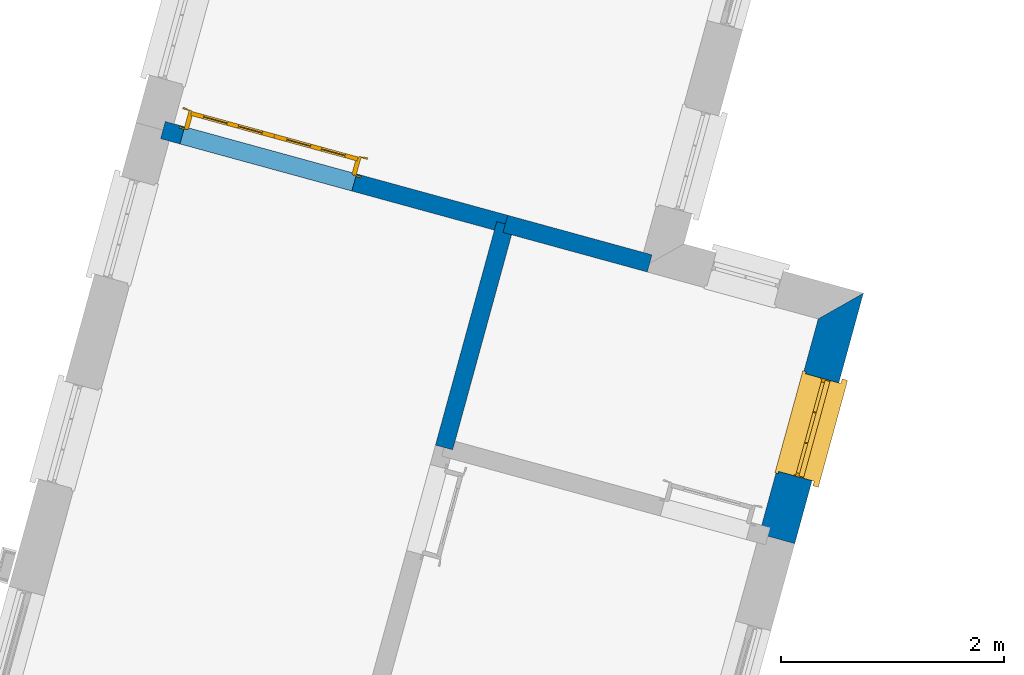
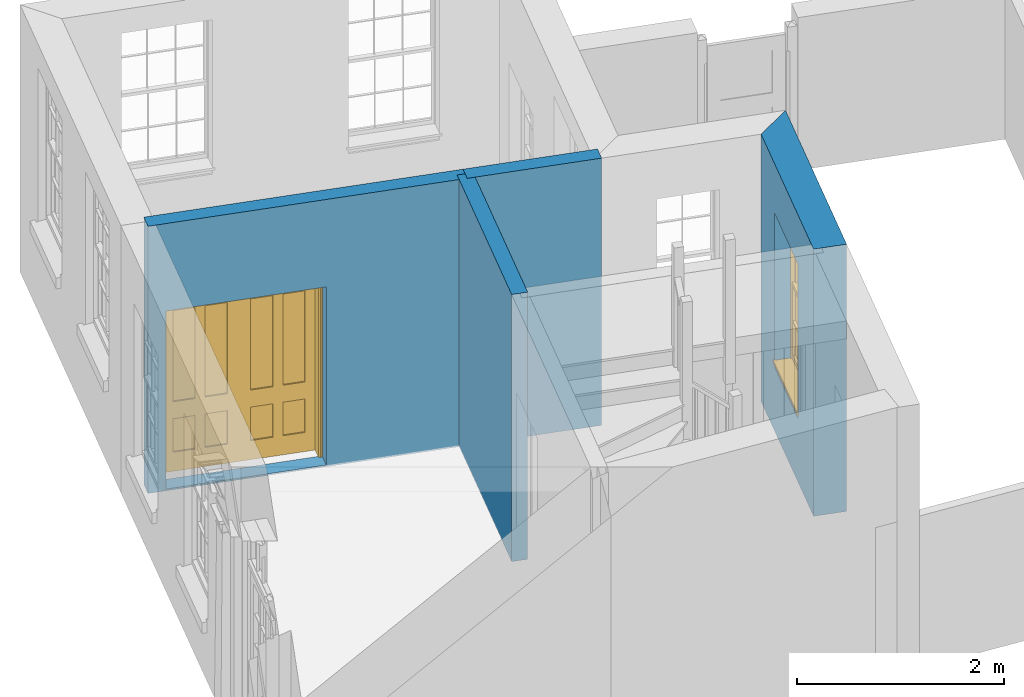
# One storey, part 4 of 8: 4 walls, 1 door, 1 window, 2 openings.
"""IFC4 building model written with IfcOpenShell, lengths in metres."""

from ifc_helpers import new_model, si_unit, frame, origin, origin_with_axes, place, context, subcontext, project, spatial, polyline, outline, extrude, faceted_brep, source, transform, mapped, material, layer, layer_set, layer_usage, type_object, type_shapes, element, fill, save


model = new_model("IFC4")

# Units and contexts
model_context = context("Model", 3, world=origin_with_axes())
body_context = subcontext(model_context, "Body", "Model", "MODEL_VIEW")
ifc_project = project(units=[si_unit("PLANEANGLEUNIT", "RADIAN"), si_unit("MASSUNIT", "GRAM", prefix="KILO"), si_unit("FORCEUNIT", "NEWTON", prefix="KILO"), si_unit("LENGTHUNIT", "METRE"), si_unit("AREAUNIT", "SQUARE_METRE"), si_unit("VOLUMEUNIT", "CUBIC_METRE")], contexts=[model_context, model_context])

# Sites, building, storey
site_1_placement = place(None, origin_with_axes())
site_1 = spatial("IfcSite", under=ifc_project, at=site_1_placement, Name="Tamar")
site_2_placement = place(site_1_placement, origin_with_axes())
site_2 = spatial("IfcSite", under=site_1, at=site_2_placement, Name="Site plot-28", CompositionType="ELEMENT")
building_placement = place(None, origin_with_axes())
building = spatial("IfcBuilding", under=site_2, at=building_placement, Name="Building plot-28", CompositionType="ELEMENT")
storey_placement = place(None, frame((0.0, 0.0, 24.0), z_axis=(0.0, 0.0, 1.0), x_axis=(1.0, 0.0, 0.0)))
storey = spatial("IfcBuildingStorey", under=building, at=storey_placement, Name="plot-28 0", CompositionType="ELEMENT", Elevation=24.0)

# Wall, opening, window
ifc_material_1 = material(Name="Masonry")
ifc_layer_1 = layer(ifc_material_1, 0.33, ventilated=False)
ifc_layer_set_1 = layer_set([ifc_layer_1], Name="exterior_0.08_0.25")
ifc_layer_usage_1 = layer_usage(ifc_layer_set_1, "AXIS2", "POSITIVE", -0.25)
wall_type_1 = type_object("IfcWallType", Name="exterior_0.08_0.25", PredefinedType="SOLIDWALL", material=ifc_layer_set_1)
wall_1_placement = place(storey_placement, frame((266.03017594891, 261.552061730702, 0.0), z_axis=(0.0, 0.0, 1.0), x_axis=(0.26425530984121, 0.96445276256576, 0.0)))
wall_1 = element("IfcWall", 1, at=wall_1_placement, inside=storey, type_object=wall_type_1, material=ifc_layer_usage_1, Name="exterior", context=body_context, shape_type="SweptSolid", body=[
    extrude(outline(polyline([(5.82694029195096e-14, 0.0799999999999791), (-1.87556871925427e-13, -0.249999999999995), (2.33108839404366, -0.250000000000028), (2.00108839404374, 0.0800000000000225), (5.82694029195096e-14, 0.0799999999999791)])), origin_with_axes(), (0.0, 0.0, 1.0), 3.15),
])
opening_1_placement = place(wall_1_placement, frame((0.58554419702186, 0.0, 0.75)))
opening_1 = element("IfcOpeningElement", 2, at=opening_1_placement, cuts=wall_1, Name="My Opening", ObjectType="Opening", context=body_context, shape_type="SweptSolid", body=[
    extrude(outline(polyline([(0.0, -0.270000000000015), (0.909999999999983, -0.269999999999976), (0.909999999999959, 1.10000000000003), (-2.37587727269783e-14, 1.09999999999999), (0.0, -0.270000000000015)])), origin_with_axes(), (0.0, 0.0, 1.0), 1.82),
])
window_type = type_object("IfcWindowType", Name="sash_big", PartitioningType="DOUBLE_PANEL_HORIZONTAL", PredefinedType="NOTDEFINED")
shared_shape_1 = source(origin(), body_context, "Body", "Brep", [
    faceted_brep([(0.033125, 0.145, 0.975209), (0.01, 0.145, 0.975209), (0.033125, 0.145, 1.376042), (0.876875, 0.145, 0.975209), (0.876875, 0.145, 1.376042), (0.9, 0.145, 0.975209), (0.876875, 0.145, 1.386042), (0.876875, 0.145, 1.786875), (0.9, 0.145, 1.81), (0.033125, 0.145, 1.786875), (0.033125, 0.145, 1.386042), (0.01, 0.145, 1.81), (0.876875, 0.115, 1.376042), (0.876875, 0.115, 0.975209), (0.9, 0.115, 0.937083), (0.033125, 0.115, 1.786875), (0.01, 0.115, 1.81), (0.033125, 0.115, 1.386042), (0.01, 0.115, 0.937083), (0.033125, 0.115, 0.975209), (0.033125, 0.115, 1.376042), (0.876875, 0.115, 1.786875), (0.876875, 0.115, 1.386042), (0.9, 0.115, 1.81), (0.033125, 0.145, 0.937083), (0.01, 0.145, 0.937083), (0.033125, 0.145, 0.53625), (0.876875, 0.145, 0.937083), (0.876875, 0.145, 0.53625), (0.9, 0.145, 0.937083), (0.876875, 0.145, 0.52625), (0.876875, 0.145, 0.125417), (0.9, 0.145, 0.077167), (0.033125, 0.145, 0.125417), (0.033125, 0.145, 0.52625), (0.01, 0.145, 0.077167), (-0.0425, 0.0, 0.01), (-0.0425, -0.05, 0.001667), (0.0, 0.0, 0.01), (0.9525, 0.0, 0.01), (0.91, 0.0, 0.01), (0.9525, -0.05, 0.001667), (-0.02, 0.33, 0.077167), (0.0, 0.33, 0.077167), (-0.02, 0.36, 0.077167), (0.0, 0.19, 0.077167), (0.01, 0.19, 0.077167), (0.91, 0.19, 0.077167), (0.91, 0.33, 0.077167), (0.9, 0.19, 0.077167), (0.93, 0.33, 0.077167), (0.93, 0.36, 0.077167), (0.01, 0.175, 0.975209), (0.9, 0.175, 0.975209), (0.876875, 0.175, 0.125417), (0.876875, 0.175, 0.52625), (0.9, 0.175, 0.077167), (0.876875, 0.175, 0.53625), (0.876875, 0.175, 0.937083), (0.033125, 0.175, 0.125417), (0.01, 0.175, 0.077167), (0.033125, 0.175, 0.52625), (0.033125, 0.175, 0.937083), (0.033125, 0.175, 0.53625), (-0.02, 0.33, 0.052167), (-0.02, 0.36, 0.052167), (0.93, 0.36, 0.052167), (0.93, 0.33, 0.052167), (0.91, 0.33, 0.052167), (0.0, 0.33, 0.052167), (0.91, 0.1, 0.026667), (0.0, 0.1, 0.026667), (-0.0425, -0.05, -0.123333), (0.9525, -0.05, -0.123333), (-0.0425, 0.0, -0.123333), (0.9525, 0.0, -0.123333), (0.01, 0.19, 1.81), (0.9, 0.19, 1.81), (0.0, 0.19, 1.82), (0.91, 0.19, 1.82), (0.01, 0.1, 0.077167), (0.9, 0.1, 0.077167), (0.592292, 0.145, 0.125417), (0.592292, 0.175, 0.125417), (0.317708, 0.175, 0.125417), (0.317708, 0.145, 0.125417), (0.592292, 0.145, 0.53625), (0.317708, 0.145, 0.53625), (0.317708, 0.145, 0.52625), (0.592292, 0.145, 0.52625), (0.592292, 0.175, 0.53625), (0.317708, 0.175, 0.53625), (0.592292, 0.115, 1.386042), (0.592292, 0.145, 1.386042), (0.317708, 0.145, 1.386042), (0.317708, 0.115, 1.386042), (0.317708, 0.115, 1.376042), (0.592292, 0.115, 1.376042), (0.317708, 0.145, 1.376042), (0.592292, 0.145, 1.376042), (0.602292, 0.115, 1.376042), (0.592292, 0.115, 0.975209), (0.602292, 0.115, 0.975209), (0.602292, 0.145, 0.975209), (0.592292, 0.145, 0.975209), (0.602292, 0.145, 1.376042), (0.602292, 0.175, 0.53625), (0.602292, 0.145, 0.53625), (0.317708, 0.175, 0.52625), (0.307708, 0.175, 0.125417), (0.307708, 0.175, 0.52625), (0.602292, 0.175, 0.52625), (0.602292, 0.175, 0.125417), (0.592292, 0.175, 0.52625), (0.307708, 0.175, 0.53625), (0.317708, 0.175, 0.937083), (0.307708, 0.175, 0.937083), (0.602292, 0.175, 0.937083), (0.592292, 0.175, 0.937083), (0.307708, 0.145, 0.52625), (0.307708, 0.145, 0.125417), (0.307708, 0.145, 0.53625), (0.307708, 0.145, 0.937083), (0.592292, 0.145, 0.937083), (0.317708, 0.145, 0.937083), (0.602292, 0.145, 0.937083), (0.602292, 0.145, 0.52625), (0.602292, 0.145, 0.125417), (0.307708, 0.115, 1.386042), (0.307708, 0.115, 1.376042), (0.307708, 0.115, 0.975209), (0.317708, 0.115, 0.975209), (0.317708, 0.115, 1.786875), (0.307708, 0.115, 1.786875), (0.602292, 0.115, 1.786875), (0.592292, 0.115, 1.786875), (0.602292, 0.115, 1.386042), (0.602292, 0.145, 1.386042), (0.307708, 0.145, 1.386042), (0.307708, 0.145, 1.786875), (0.317708, 0.145, 1.786875), (0.592292, 0.145, 1.786875), (0.602292, 0.145, 1.786875), (0.307708, 0.145, 1.376042), (0.317708, 0.145, 0.975209), (0.307708, 0.145, 0.975209), (0.91, 0.1, 1.82), (0.9, 0.1, 1.81), (0.01, 0.1, 1.81), (0.0, 0.1, 1.82), (0.91, 0.0, 0.0), (0.0, 0.0, 0.0), (0.91, 0.33, 0.0), (0.0, 0.33, 0.0)], [[[0, 1, 2]], [[3, 4, 5]], [[6, 7, 8]], [[9, 10, 11]], [[12, 13, 14]], [[15, 16, 17]], [[18, 19, 20]], [[21, 22, 23]], [[24, 25, 26]], [[27, 28, 29]], [[30, 31, 32]], [[33, 34, 35]], [[14, 27, 29]], [[25, 24, 18]], [[36, 37, 38]], [[39, 40, 41]], [[42, 43, 44]], [[45, 46, 43]], [[47, 48, 49]], [[50, 51, 48]], [[1, 0, 52]], [[5, 53, 3]], [[54, 55, 56]], [[57, 58, 53]], [[59, 60, 61]], [[62, 63, 52]], [[48, 43, 46, 49]], [[51, 44, 43, 48]], [[64, 42, 44, 65]], [[65, 44, 51, 66]], [[66, 51, 50, 67]], [[65, 66, 68, 69]], [[60, 56, 49, 46]], [[70, 71, 38, 40]], [[37, 41, 40, 38]], [[37, 72, 73, 41]], [[74, 75, 73, 72]], [[8, 11, 76, 77]], [[76, 78, 79, 77]], [[32, 35, 80, 81]], [[81, 80, 71, 70]], [[82, 83, 84, 85]], [[86, 87, 88, 89]], [[86, 90, 91, 87]], [[92, 93, 94, 95]], [[92, 95, 96, 97]], [[96, 98, 99, 97]], [[100, 97, 101, 102]], [[103, 104, 99, 105]], [[97, 99, 104, 101]], [[102, 103, 105, 100]], [[28, 57, 106, 107]], [[108, 84, 109, 110]], [[111, 112, 83, 113]], [[114, 110, 61, 63]], [[90, 113, 108, 91]], [[115, 91, 114, 116]], [[117, 106, 90, 118]], [[111, 106, 57, 55]], [[119, 110, 109, 120]], [[34, 61, 110, 119]], [[89, 113, 83, 82]], [[88, 108, 113, 89]], [[85, 84, 108, 88]], [[121, 114, 63, 26]], [[122, 116, 114, 121]], [[123, 118, 90, 86]], [[87, 91, 115, 124]], [[107, 106, 117, 125]], [[126, 111, 55, 30]], [[127, 112, 111, 126]], [[126, 30, 28, 107]], [[88, 119, 120, 85]], [[126, 89, 82, 127]], [[125, 123, 86, 107]], [[121, 26, 34, 119]], [[124, 122, 121, 87]], [[128, 17, 20, 129]], [[96, 129, 130, 131]], [[132, 133, 128, 95]], [[134, 135, 92, 136]], [[100, 12, 22, 136]], [[137, 6, 4, 105]], [[94, 138, 139, 140]], [[137, 93, 141, 142]], [[99, 98, 94, 93]], [[143, 2, 10, 138]], [[144, 145, 143, 98]], [[129, 143, 145, 130]], [[20, 2, 143, 129]], [[131, 144, 98, 96]], [[128, 138, 10, 17]], [[133, 139, 138, 128]], [[135, 141, 93, 92]], [[95, 94, 140, 132]], [[22, 6, 137, 136]], [[136, 137, 142, 134]], [[100, 105, 4, 12]], [[107, 86, 89, 126]], [[106, 111, 113, 90]], [[91, 108, 110, 114]], [[87, 121, 119, 88]], [[97, 100, 136, 92]], [[129, 96, 95, 128]], [[98, 143, 138, 94]], [[105, 99, 93, 137]], [[131, 101, 104, 144]], [[124, 115, 118, 123]], [[132, 140, 141, 135]], [[120, 109, 59, 33]], [[15, 9, 139, 133]], [[134, 142, 7, 21]], [[31, 54, 112, 127]], [[36, 74, 72, 37]], [[39, 41, 73, 75]], [[18, 14, 101, 131]], [[23, 16, 132, 135]], [[83, 56, 60, 84]], [[52, 53, 118, 115]], [[53, 52, 144, 104]], [[11, 8, 141, 140]], [[14, 18, 124, 123]], [[2, 1, 11, 10]], [[8, 5, 4, 6]], [[57, 53, 56, 55]], [[60, 52, 63, 61]], [[26, 25, 35, 34]], [[32, 29, 28, 30]], [[14, 23, 22, 12]], [[18, 20, 17, 16]], [[19, 0, 2, 20]], [[17, 10, 9, 15]], [[12, 4, 3, 13]], [[21, 7, 6, 22]], [[27, 58, 57, 28]], [[30, 55, 54, 31]], [[33, 59, 61, 34]], [[26, 63, 62, 24]], [[5, 8, 77, 53]], [[76, 11, 1, 52]], [[46, 45, 78, 76]], [[49, 77, 79, 47]], [[70, 146, 147, 81]], [[71, 80, 148, 149]], [[19, 130, 145, 0]], [[102, 13, 3, 103]], [[116, 122, 24, 62]], [[29, 32, 81, 14]], [[80, 35, 25, 18]], [[60, 46, 76, 52]], [[77, 49, 56, 53]], [[23, 14, 81, 147]], [[16, 148, 80, 18]], [[35, 85, 120]], [[120, 33, 35]], [[127, 82, 32]], [[32, 31, 127]], [[32, 82, 85, 35]], [[102, 101, 14]], [[14, 13, 102]], [[18, 131, 130]], [[130, 19, 18]], [[134, 21, 23]], [[23, 135, 134]], [[16, 15, 133]], [[133, 132, 16]], [[11, 140, 139]], [[139, 9, 11]], [[142, 141, 8]], [[8, 7, 142]], [[23, 147, 148, 16]], [[146, 149, 148, 147]], [[52, 115, 116]], [[116, 62, 52]], [[118, 53, 117]], [[58, 117, 53]], [[27, 125, 117, 58]], [[56, 83, 112]], [[112, 54, 56]], [[109, 84, 60]], [[60, 59, 109]], [[125, 27, 14]], [[14, 123, 125]], [[122, 124, 18]], [[18, 24, 122]], [[145, 144, 52]], [[52, 0, 145]], [[103, 3, 53]], [[53, 104, 103]], [[79, 78, 149, 146]], [[78, 45, 71, 149]], [[146, 70, 47, 79]], [[150, 75, 74, 151]], [[68, 66, 67]], [[48, 68, 67, 50]], [[69, 64, 65]], [[42, 64, 69, 43]], [[69, 68, 152, 153]], [[70, 68, 48, 47]], [[150, 152, 68, 70]], [[43, 69, 71, 45]], [[69, 153, 151, 71]], [[152, 150, 151, 153]], [[38, 151, 74, 36]], [[71, 151, 38]], [[39, 75, 150, 40]], [[40, 150, 70]]]),
])
type_shapes(window_type, [shared_shape_1])
window_placement = place(storey_placement, frame((266.445311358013, 262.045442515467, 0.75), z_axis=(0.0, 0.0, 1.0), x_axis=(0.240472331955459, 0.877652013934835, 0.0)))
window = element("IfcWindow", 3, at=window_placement, inside=storey, type_object=window_type, Name="toilet outside window", OverallHeight=1.82, OverallWidth=0.91, context=body_context, shape_type="MappedRepresentation", body=[
    mapped(shared_shape_1, transform((0.0, 0.0, 0.0), scale=1.0)),
])
fill(opening_1, window)

# Wall, opening, door
ifc_material_2 = material(Name="Masonry")
ifc_layer_2 = layer(ifc_material_2, 0.16, ventilated=False)
ifc_layer_set_2 = layer_set([ifc_layer_2], Name="interior_0.08_0.08")
ifc_layer_usage_2 = layer_usage(ifc_layer_set_2, "AXIS2", "POSITIVE", -0.08)
wall_type_2 = type_object("IfcWallType", Name="interior_0.08_0.08", PredefinedType="SOLIDWALL", material=ifc_layer_set_2)
wall_2_placement = place(storey_placement, frame((260.599846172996, 265.197737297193, 0.0), z_axis=(0.0, 0.0, 1.0), x_axis=(0.964452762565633, -0.264255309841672, 0.0)))
wall_2 = element("IfcWall", 4, at=wall_2_placement, inside=storey, type_object=wall_type_2, material=ifc_layer_usage_2, Name="interior", context=body_context, shape_type="SweptSolid", body=[
    extrude(outline(polyline([(1.99178587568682e-14, 0.0799999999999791), (-1.99098923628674e-14, -0.0799999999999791), (3.18671452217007, -0.0799999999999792), (3.18671452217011, 0.079999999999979), (1.99178587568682e-14, 0.0799999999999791)])), origin_with_axes(), (0.0, 0.0, 1.0), 3.15),
])
opening_2_placement = place(wall_2_placement, frame((0.180000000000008, 0.0, 0.0199999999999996)))
opening_2 = element("IfcOpeningElement", 5, at=opening_2_placement, cuts=wall_2, Name="My Opening", ObjectType="Opening", context=body_context, shape_type="SweptSolid", body=[
    extrude(outline(polyline([(0.0, -0.100000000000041), (1.6, -0.10000000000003), (1.59999999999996, 1.10000000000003), (-4.07729405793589e-14, 1.10000000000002), (0.0, -0.100000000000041)])), origin_with_axes(), (0.0, 0.0, 1.0), 2.1),
])
door_type = type_object("IfcDoorType", Name="door_inside_double", OperationType="SINGLE_SWING_LEFT", PredefinedType="NOTDEFINED")
shared_shape_2 = source(origin(), body_context, "Body", "Brep", [
    faceted_brep([(0.14, 0.307, 1.895), (0.14, 0.307, 0.82), (0.363, 0.307, 0.82), (0.363, 0.307, 1.895), (0.14, 0.292, 1.895), (0.14, 0.292, 0.82), (0.363, 0.292, 0.82), (0.363, 0.292, 1.895), (0.027, 0.292, 1.895), (0.027, 0.292, 0.82), (0.363, 0.292, 0.62), (0.14, 0.292, 0.62), (0.463, 0.292, 0.82), (0.463, 0.292, 1.895), (0.363, 0.292, 2.073), (0.14, 0.292, 2.073), (0.027, 0.292, 2.073), (0.027, 0.33, 1.895), (0.027, 0.33, 0.82), (0.027, 0.292, 0.62), (0.463, 0.292, 0.62), (0.14, 0.307, 0.62), (0.363, 0.307, 0.62), (0.463, 0.307, 0.82), (0.463, 0.307, 1.895), (0.463, 0.292, 2.073), (0.14, 0.33, 2.073), (0.363, 0.33, 2.073), (0.027, 0.33, 2.073), (0.14, 0.33, 1.895), (0.14, 0.33, 0.82), (0.027, 0.33, 0.62), (0.027, 0.292, 0.225), (0.14, 0.292, 0.225), (0.363, 0.292, 0.225), (0.463, 0.292, 0.225), (0.686, 0.292, 0.62), (0.686, 0.292, 0.82), (0.14, 0.307, 0.225), (0.363, 0.307, 0.225), (0.686, 0.307, 0.82), (0.686, 0.307, 1.895), (0.686, 0.292, 1.895), (0.686, 0.292, 2.073), (0.463, 0.33, 2.073), (0.363, 0.33, 1.895), (0.14, 0.315, 1.895), (0.14, 0.315, 0.82), (0.14, 0.33, 0.62), (0.027, 0.33, 0.225), (0.027, 0.292, 0.0), (0.14, 0.292, 0.0), (0.363, 0.292, 0.0), (0.463, 0.292, 0.0), (0.463, 0.307, 0.225), (0.463, 0.307, 0.62), (0.686, 0.307, 0.62), (0.799, 0.292, 0.62), (0.799, 0.292, 0.82), (0.799, 0.292, 1.895), (0.799, 0.292, 2.073), (0.686, 0.33, 2.073), (0.463, 0.33, 1.895), (0.363, 0.315, 1.895), (0.363, 0.315, 0.82), (0.363, 0.33, 0.82), (0.363, 0.33, 0.62), (0.14, 0.33, 0.225), (0.027, 0.33, 0.0), (0.14, 0.33, 0.0), (0.363, 0.33, 0.0), (0.463, 0.33, 0.0), (0.686, 0.292, 0.0), (0.686, 0.292, 0.225), (0.686, 0.307, 0.225), (0.799, 0.292, 0.225), (0.799, 0.33, 0.62), (0.799, 0.33, 0.82), (0.799, 0.33, 1.895), (0.799, 0.33, 2.073), (0.686, 0.33, 1.895), (0.463, 0.33, 0.82), (0.463, 0.33, 0.62), (0.363, 0.315, 0.62), (0.14, 0.315, 0.62), (0.14, 0.315, 0.225), (0.363, 0.33, 0.225), (0.463, 0.33, 0.225), (0.686, 0.33, 0.0), (0.799, 0.292, 0.0), (0.799, 0.33, 0.225), (0.686, 0.33, 0.62), (0.686, 0.33, 0.82), (0.686, 0.315, 1.895), (0.463, 0.315, 1.895), (0.463, 0.315, 0.82), (0.363, 0.315, 0.225), (0.686, 0.33, 0.225), (0.799, 0.33, 0.0), (0.686, 0.315, 0.82), (0.463, 0.315, 0.62), (0.463, 0.315, 0.225), (0.686, 0.315, 0.62), (0.686, 0.315, 0.225), (1.46, 0.33, 1.895), (1.237, 0.33, 1.895), (1.237, 0.33, 2.073), (1.46, 0.33, 2.073), (1.46, 0.315, 1.895), (1.237, 0.315, 1.895), (1.137, 0.33, 1.895), (1.137, 0.33, 2.073), (1.237, 0.292, 2.073), (1.46, 0.292, 2.073), (1.573, 0.33, 1.895), (1.573, 0.33, 2.073), (1.46, 0.33, 0.82), (1.46, 0.315, 0.82), (1.237, 0.315, 0.82), (1.237, 0.33, 0.82), (1.137, 0.33, 0.82), (0.914, 0.33, 2.073), (0.914, 0.33, 1.895), (1.137, 0.292, 2.073), (1.237, 0.292, 1.895), (1.46, 0.292, 1.895), (1.573, 0.292, 2.073), (1.573, 0.33, 0.82), (1.573, 0.292, 1.895), (1.237, 0.33, 0.62), (1.137, 0.33, 0.62), (1.137, 0.315, 0.82), (1.137, 0.315, 1.895), (0.914, 0.292, 2.073), (0.914, 0.315, 1.895), (0.801, 0.33, 2.073), (0.801, 0.33, 1.895), (1.137, 0.292, 1.895), (1.237, 0.307, 1.895), (1.46, 0.307, 1.895), (1.573, 0.292, 0.82), (1.573, 0.33, 0.62), (1.46, 0.33, 0.62), (1.237, 0.33, 0.225), (1.137, 0.33, 0.225), (0.914, 0.33, 0.82), (0.914, 0.33, 0.62), (0.914, 0.315, 0.82), (0.801, 0.292, 2.073), (0.914, 0.292, 1.895), (0.801, 0.33, 0.82), (0.801, 0.292, 1.895), (1.137, 0.292, 0.82), (1.237, 0.292, 0.82), (1.237, 0.307, 0.82), (1.46, 0.307, 0.82), (1.46, 0.292, 0.82), (1.573, 0.292, 0.62), (1.573, 0.33, 0.225), (1.46, 0.33, 0.225), (1.46, 0.315, 0.62), (1.237, 0.315, 0.62), (1.237, 0.33, 0.0), (1.137, 0.33, 0.0), (1.137, 0.315, 0.225), (1.137, 0.315, 0.62), (1.237, 0.315, 0.225), (0.914, 0.315, 0.62), (0.801, 0.33, 0.62), (0.914, 0.307, 1.895), (1.137, 0.307, 1.895), (0.801, 0.292, 0.82), (1.137, 0.292, 0.62), (1.237, 0.292, 0.62), (1.137, 0.307, 0.82), (1.46, 0.292, 0.62), (1.573, 0.292, 0.225), (1.573, 0.33, 0.0), (1.46, 0.33, 0.0), (1.46, 0.315, 0.225), (1.237, 0.292, 0.0), (1.137, 0.292, 0.0), (0.914, 0.33, 0.225), (0.914, 0.33, 0.0), (0.914, 0.315, 0.225), (0.801, 0.33, 0.225), (0.801, 0.292, 0.62), (0.914, 0.292, 0.82), (0.914, 0.307, 0.82), (1.137, 0.292, 0.225), (1.237, 0.292, 0.225), (0.914, 0.292, 0.62), (1.46, 0.292, 0.225), (1.573, 0.292, 0.0), (1.46, 0.292, 0.0), (0.914, 0.292, 0.0), (0.801, 0.33, 0.0), (0.801, 0.292, 0.225), (1.237, 0.307, 0.225), (1.237, 0.307, 0.62), (1.137, 0.307, 0.62), (1.137, 0.307, 0.225), (1.46, 0.307, 0.62), (0.914, 0.307, 0.62), (1.46, 0.307, 0.225), (0.914, 0.292, 0.225), (0.801, 0.292, 0.0), (0.914, 0.307, 0.225), (0.02, 0.335, 0.0), (0.005, 0.34, 0.0), (0.005, 0.34, 2.095), (0.02, 0.335, 2.08), (0.02, 0.33, 0.0), (0.0, 0.335, 0.0), (0.0, 0.335, 2.1), (1.595, 0.34, 2.095), (1.58, 0.335, 2.08), (0.02, 0.33, 2.08), (0.0, 0.33, 0.0), (-0.032, 0.345, 0.0), (-0.032, 0.345, 2.132), (1.6, 0.335, 2.1), (1.595, 0.34, 0.0), (1.58, 0.335, 0.0), (1.58, 0.33, 2.08), (0.025, 0.33, 0.0), (0.025, 0.33, 2.075), (-0.04, 0.34, 0.0), (0.025, 0.29, 0.0), (0.0, 0.17, 0.0), (-0.04, 0.34, 2.14), (1.632, 0.345, 2.132), (1.6, 0.335, 0.0), (1.58, 0.33, 0.0), (1.575, 0.33, 2.075), (0.025, 0.29, 2.075), (-0.06, 0.33, 0.0), (0.035, 0.17, 0.0), (0.0, 0.17, 2.1), (0.0, 0.33, 2.1), (-0.04, 0.345, 0.0), (-0.04, 0.345, 2.14), (1.64, 0.34, 2.14), (1.632, 0.345, 0.0), (1.6, 0.33, 0.0), (1.575, 0.33, 0.0), (1.575, 0.29, 2.075), (0.04, 0.29, 0.0), (0.04, 0.29, 2.06), (-0.06, 0.345, 0.0), (-0.06, 0.33, 2.16), (0.015, 0.165, 0.0), (0.04, 0.17, 0.0), (-0.045, 0.17, 2.145), (-0.045, 0.17, 0.0), (1.6, 0.17, 2.1), (1.6, 0.33, 2.1), (-0.06, 0.345, 2.16), (1.64, 0.345, 2.14), (1.64, 0.34, 0.0), (1.6, 0.17, 0.0), (1.575, 0.29, 0.0), (1.56, 0.29, 2.06), (0.04, 0.17, 2.06), (1.66, 0.33, 2.16), (-0.017, 0.155, 0.0), (-0.025, 0.16, 0.0), (0.02, 0.16, 0.0), (0.035, 0.165, 0.0), (0.035, 0.17, 2.065), (1.645, 0.17, 2.145), (-0.045, 0.155, 2.145), (-0.045, 0.155, 0.0), (1.66, 0.345, 2.16), (1.64, 0.345, 0.0), (1.66, 0.33, 0.0), (1.565, 0.17, 0.0), (1.56, 0.29, 0.0), (1.56, 0.17, 2.06), (-0.017, 0.155, 2.117), (-0.025, 0.16, 2.125), (0.015, 0.165, 2.085), (0.02, 0.16, 2.08), (0.035, 0.165, 2.065), (1.565, 0.17, 2.065), (1.645, 0.17, 0.0), (1.645, 0.155, 2.145), (-0.025, 0.155, 0.0), (1.66, 0.345, 0.0), (1.585, 0.165, 0.0), (1.56, 0.17, 0.0), (1.617, 0.155, 2.117), (1.625, 0.16, 2.125), (-0.025, 0.155, 2.125), (1.585, 0.165, 2.085), (1.58, 0.16, 2.08), (1.565, 0.165, 2.065), (1.625, 0.16, 0.0), (1.645, 0.155, 0.0), (1.625, 0.155, 2.125), (1.617, 0.155, 0.0), (1.565, 0.165, 0.0), (1.58, 0.16, 0.0), (1.625, 0.155, 0.0)], [[[0, 1, 2, 3]], [[1, 0, 4, 5]], [[2, 1, 5, 6]], [[6, 7, 3, 2]], [[7, 4, 0, 3]], [[4, 8, 9, 5]], [[10, 6, 5, 11]], [[6, 12, 13, 7]], [[14, 15, 4, 7]], [[15, 16, 8, 4]], [[9, 8, 17, 18]], [[5, 9, 19, 11]], [[10, 20, 12, 6]], [[10, 11, 21, 22]], [[13, 12, 23, 24]], [[7, 13, 25, 14]], [[26, 15, 14, 27]], [[28, 16, 15, 26]], [[8, 16, 28, 17]], [[17, 29, 30, 18]], [[18, 31, 19, 9]], [[11, 19, 32, 33]], [[34, 35, 20, 10]], [[20, 36, 37, 12]], [[11, 33, 38, 21]], [[39, 22, 21, 38]], [[34, 10, 22, 39]], [[12, 37, 40, 23]], [[24, 23, 40, 41]], [[42, 13, 24, 41]], [[13, 42, 43, 25]], [[14, 25, 44, 27]], [[26, 27, 45, 29]], [[28, 26, 29, 17]], [[30, 29, 46, 47]], [[18, 30, 48, 31]], [[31, 49, 32, 19]], [[33, 32, 50, 51]], [[52, 53, 35, 34]], [[20, 35, 54, 55]], [[36, 20, 55, 56]], [[36, 57, 58, 37]], [[33, 34, 39, 38]], [[37, 42, 41, 40]], [[42, 59, 60, 43]], [[44, 25, 43, 61]], [[62, 45, 27, 44]], [[29, 45, 63, 46]], [[46, 63, 64, 47]], [[65, 30, 47, 64]], [[30, 65, 66, 48]], [[31, 48, 67, 49]], [[68, 50, 32, 49]], [[68, 69, 51, 50]], [[34, 33, 51, 52]], [[53, 52, 70, 71]], [[53, 72, 73, 35]], [[35, 73, 74, 54]], [[55, 54, 74, 56]], [[73, 36, 56, 74]], [[73, 75, 57, 36]], [[57, 76, 77, 58]], [[37, 58, 59, 42]], [[78, 79, 60, 59]], [[60, 79, 61, 43]], [[80, 62, 44, 61]], [[81, 65, 45, 62]], [[45, 65, 64, 63]], [[82, 66, 65, 81]], [[48, 66, 83, 84]], [[67, 48, 84, 85]], [[49, 67, 69, 68]], [[52, 51, 69, 70]], [[71, 70, 86, 87]], [[72, 53, 71, 88]], [[72, 89, 75, 73]], [[75, 90, 76, 57]], [[76, 91, 92, 77]], [[78, 59, 58, 77]], [[78, 80, 61, 79]], [[62, 80, 93, 94]], [[81, 62, 94, 95]], [[87, 86, 66, 82]], [[91, 82, 81, 92]], [[66, 86, 96, 83]], [[84, 83, 96, 85]], [[86, 67, 85, 96]], [[67, 86, 70, 69]], [[88, 71, 87, 97]], [[89, 72, 88, 98]], [[89, 98, 90, 75]], [[90, 97, 91, 76]], [[80, 78, 77, 92]], [[80, 92, 99, 93]], [[99, 95, 94, 93]], [[92, 81, 95, 99]], [[87, 82, 100, 101]], [[82, 91, 102, 100]], [[97, 87, 101, 103]], [[98, 88, 97, 90]], [[91, 97, 103, 102]], [[103, 101, 100, 102]], [[104, 105, 106, 107]], [[105, 104, 108, 109]], [[105, 110, 111, 106]], [[106, 112, 113, 107]], [[114, 104, 107, 115]], [[104, 116, 117, 108]], [[117, 118, 109, 108]], [[119, 105, 109, 118]], [[119, 120, 110, 105]], [[121, 111, 110, 122]], [[123, 112, 106, 111]], [[124, 125, 113, 112]], [[126, 115, 107, 113]], [[104, 114, 127, 116]], [[114, 115, 126, 128]], [[116, 119, 118, 117]], [[129, 130, 120, 119]], [[110, 120, 131, 132]], [[121, 133, 123, 111]], [[122, 110, 132, 134]], [[135, 121, 122, 136]], [[137, 124, 112, 123]], [[125, 124, 138, 139]], [[125, 128, 126, 113]], [[114, 128, 140, 127]], [[141, 142, 116, 127]], [[142, 129, 119, 116]], [[143, 144, 130, 129]], [[145, 120, 130, 146]], [[120, 145, 147, 131]], [[134, 132, 131, 147]], [[135, 148, 133, 121]], [[123, 133, 149, 137]], [[145, 122, 134, 147]], [[136, 122, 145, 150]], [[151, 148, 135, 136]], [[152, 153, 124, 137]], [[124, 153, 154, 138]], [[138, 154, 155, 139]], [[156, 125, 139, 155]], [[156, 140, 128, 125]], [[157, 141, 127, 140]], [[158, 159, 142, 141]], [[129, 142, 160, 161]], [[162, 163, 144, 143]], [[130, 144, 164, 165]], [[143, 129, 161, 166]], [[146, 130, 165, 167]], [[150, 145, 146, 168]], [[133, 148, 151, 149]], [[137, 149, 169, 170]], [[171, 151, 136, 150]], [[172, 173, 153, 152]], [[152, 137, 170, 174]], [[153, 156, 155, 154]], [[175, 157, 140, 156]], [[176, 158, 141, 157]], [[177, 178, 159, 158]], [[142, 159, 179, 160]], [[179, 166, 161, 160]], [[180, 181, 163, 162]], [[182, 144, 163, 183]], [[178, 162, 143, 159]], [[144, 182, 184, 164]], [[167, 165, 164, 184]], [[159, 143, 166, 179]], [[182, 146, 167, 184]], [[168, 146, 182, 185]], [[150, 168, 186, 171]], [[149, 151, 171, 187]], [[149, 187, 188, 169]], [[169, 188, 174, 170]], [[189, 190, 173, 172]], [[173, 175, 156, 153]], [[172, 152, 187, 191]], [[187, 152, 174, 188]], [[192, 176, 157, 175]], [[193, 177, 158, 176]], [[193, 194, 178, 177]], [[181, 180, 190, 189]], [[181, 195, 183, 163]], [[194, 180, 162, 178]], [[185, 182, 183, 196]], [[168, 185, 197, 186]], [[187, 171, 186, 191]], [[173, 190, 198, 199]], [[189, 172, 200, 201]], [[175, 173, 199, 202]], [[172, 191, 203, 200]], [[194, 193, 176, 192]], [[192, 175, 202, 204]], [[180, 194, 192, 190]], [[189, 205, 195, 181]], [[196, 183, 195, 206]], [[196, 206, 197, 185]], [[191, 186, 197, 205]], [[190, 192, 204, 198]], [[199, 198, 204, 202]], [[201, 200, 203, 207]], [[205, 189, 201, 207]], [[191, 205, 207, 203]], [[205, 197, 206, 195]], [[208, 209, 210, 211]], [[208, 212, 213, 209]], [[209, 213, 214, 210]], [[211, 210, 215, 216]], [[211, 217, 212, 208]], [[218, 213, 212]], [[213, 219, 220, 214]], [[210, 214, 221, 215]], [[216, 215, 222, 223]], [[217, 211, 216, 224]], [[225, 212, 217, 226]], [[219, 213, 218, 227]], [[218, 212, 228, 229]], [[219, 227, 230, 220]], [[214, 220, 231, 221]], [[215, 221, 232, 222]], [[222, 232, 233, 223]], [[224, 216, 223, 233]], [[226, 217, 224, 234]], [[225, 228, 212]], [[235, 228, 225, 226]], [[236, 227, 218]], [[237, 229, 228]], [[229, 238, 239, 218]], [[227, 240, 241, 230]], [[220, 230, 242, 231]], [[221, 231, 243, 232]], [[244, 233, 232]], [[234, 224, 233, 245]], [[246, 235, 226, 234]], [[247, 228, 235, 248]], [[240, 227, 236, 249]], [[239, 250, 236, 218]], [[251, 229, 237]], [[252, 237, 228, 247]], [[253, 238, 229, 254]], [[238, 255, 256, 239]], [[241, 240, 257]], [[230, 241, 258, 242]], [[231, 242, 259, 243]], [[259, 244, 232, 243]], [[260, 261, 233, 244]], [[245, 233, 261]], [[261, 246, 234, 245]], [[248, 235, 246, 262]], [[248, 263, 252, 247]], [[250, 257, 249, 236]], [[240, 249, 257]], [[256, 264, 250, 239]], [[265, 266, 229, 251]], [[267, 251, 237, 268]], [[263, 269, 237, 252]], [[270, 255, 238, 253]], [[229, 266, 254]], [[271, 253, 254, 272]], [[256, 255, 260, 244]], [[273, 241, 257]], [[273, 258, 241]], [[242, 258, 274, 259]], [[275, 244, 259]], [[260, 276, 261]], [[261, 277, 262, 246]], [[262, 278, 263, 248]], [[264, 273, 257, 250]], [[244, 275, 264, 256]], [[266, 265, 279, 280]], [[265, 251, 281, 279]], [[251, 267, 282, 281]], [[269, 283, 268, 237]], [[267, 268, 283, 282]], [[278, 284, 269, 263]], [[285, 260, 255, 270]], [[286, 270, 253, 271]], [[272, 254, 266, 287]], [[271, 272, 287]], [[273, 274, 258]], [[288, 275, 259, 274]], [[276, 260, 289]], [[277, 261, 276, 290]], [[278, 262, 277, 290]], [[275, 288, 273, 264]], [[280, 279, 291, 292]], [[287, 266, 280, 293]], [[279, 281, 294, 291]], [[281, 282, 295, 294]], [[284, 296, 283, 269]], [[282, 283, 296, 295]], [[290, 276, 284, 278]], [[285, 297, 260]], [[298, 285, 270, 286]], [[299, 286, 271]], [[271, 287, 293]], [[273, 288, 274]], [[300, 289, 260, 297]], [[301, 276, 289, 302]], [[292, 291, 300, 297]], [[293, 280, 292, 299]], [[291, 294, 289, 300]], [[294, 295, 302, 289]], [[296, 284, 276, 301]], [[295, 296, 301, 302]], [[303, 297, 285, 298]], [[299, 298, 286]], [[271, 293, 299]], [[299, 292, 297, 303]], [[299, 303, 298]]]),
])
type_shapes(door_type, [shared_shape_2])
door_placement = place(storey_placement, frame((260.747022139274, 265.053726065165, 0.0199999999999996), z_axis=(0.0, 0.0, 1.0), x_axis=(1.54312442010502, -0.422808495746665, 0.0)))
door = element("IfcDoor", 6, at=door_placement, inside=storey, type_object=door_type, Name="kitchen living inside door", OverallHeight=2.1, OverallWidth=1.6, context=body_context, shape_type="MappedRepresentation", body=[
    mapped(shared_shape_2, transform((0.0, 0.0, 0.0), scale=1.0)),
])
fill(opening_2, door)

# Walls
wall_3_placement = place(storey_placement, frame((263.673281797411, 264.35563106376, 0.0), z_axis=(0.0, 0.0, 1.0), x_axis=(0.964452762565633, -0.264255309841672, 0.0)))
element("IfcWall", 7, at=wall_3_placement, inside=storey, type_object=wall_type_2, material=ifc_layer_usage_2, Name="interior", context=body_context, shape_type="SweptSolid", body=[
    extrude(outline(polyline([(1.99711494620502e-14, 0.0799999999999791), (-1.99809466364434e-14, -0.0799999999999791), (1.3430316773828, -0.0799999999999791), (1.34303167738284, 0.0799999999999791), (1.99711494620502e-14, 0.0799999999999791)])), origin_with_axes(), (0.0, 0.0, 1.0), 3.15),
])
wall_4_placement = place(storey_placement, frame((263.673281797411, 264.35563106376, 0.0), z_axis=(0.0, 0.0, 1.0), x_axis=(-0.264255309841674, -0.964452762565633, 0.0)))
element("IfcWall", 8, at=wall_4_placement, inside=storey, type_object=wall_type_2, material=ifc_layer_usage_2, Name="interior", context=body_context, shape_type="SweptSolid", body=[
    extrude(outline(polyline([(1.96673380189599e-14, 0.0799999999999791), (-1.9712662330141e-14, -0.0799999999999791), (2.08108839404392, -0.0799999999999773), (2.08108839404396, 0.0799999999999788), (1.96673380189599e-14, 0.0799999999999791)])), origin_with_axes(), (0.0, 0.0, 1.0), 3.15),
])

save(model, "model.ifc")
